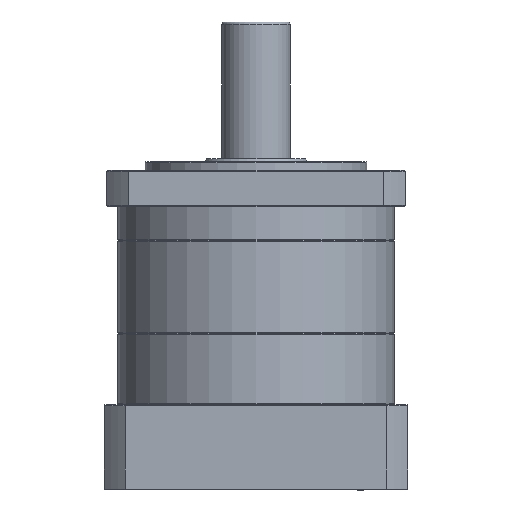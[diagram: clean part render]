
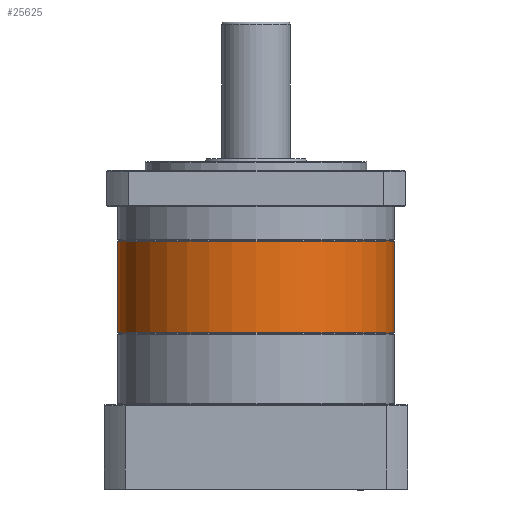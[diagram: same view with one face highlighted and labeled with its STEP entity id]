
A CAD part, front view. The second image highlights one B-rep face of the part: STEP entity #25625.
In plain terms, the highlighted cylindrical face has radius 81 mm (diameter 162 mm), a partial arc.
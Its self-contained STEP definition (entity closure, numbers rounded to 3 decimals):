
#221 = VECTOR ( 'NONE', #5480, 1000. ) ;
#3948 = DIRECTION ( 'NONE',  ( 0., 0., 1. ) ) ;
#4606 = DIRECTION ( 'NONE',  ( 0., 0., -1. ) ) ;
#5480 = DIRECTION ( 'NONE',  ( 0., 0., 1. ) ) ;
#5521 = VERTEX_POINT ( 'NONE', #92165 ) ;
#6368 = EDGE_CURVE ( 'NONE', #25896, #21013, #52106, .T. ) ;
#10064 = EDGE_CURVE ( 'NONE', #21013, #87005, #22314, .T. ) ;
#10239 = EDGE_CURVE ( 'NONE', #44644, #25896, #62520, .T. ) ;
#11413 = DIRECTION ( 'NONE',  ( 1., 0., 0. ) ) ;
#12840 = EDGE_CURVE ( 'NONE', #5521, #87005, #19695, .T. ) ;
#19695 = CIRCLE ( 'NONE', #96311, 81. ) ;
#21013 = VERTEX_POINT ( 'NONE', #35843 ) ;
#21294 = DIRECTION ( 'NONE',  ( 0., 1., 0. ) ) ;
#22314 = LINE ( 'NONE', #88159, #221 ) ;
#22597 = ORIENTED_EDGE ( 'NONE', *, *, #12840, .T. ) ;
#25625 = ADVANCED_FACE ( 'NONE', ( #80813 ), #70359, .T. ) ;
#25896 = VERTEX_POINT ( 'NONE', #101438 ) ;
#33723 = DIRECTION ( 'NONE',  ( 0., 0., 1. ) ) ;
#34194 = AXIS2_PLACEMENT_3D ( 'NONE', #65243, #105965, #64540 ) ;
#35377 = DIRECTION ( 'NONE',  ( 0., 0., -1. ) ) ;
#35796 = ORIENTED_EDGE ( 'NONE', *, *, #73195, .T. ) ;
#35843 = CARTESIAN_POINT ( 'NONE',  ( 94.484, 78.843, 45.418 ) ) ;
#38027 = CARTESIAN_POINT ( 'NONE',  ( 175.484, 78.843, 44.918 ) ) ;
#44068 = CARTESIAN_POINT ( 'NONE',  ( 175.484, 78.843, 98.918 ) ) ;
#44644 = VERTEX_POINT ( 'NONE', #65484 ) ;
#46223 = CARTESIAN_POINT ( 'NONE',  ( 94.484, 78.843, 98.918 ) ) ;
#50736 = CARTESIAN_POINT ( 'NONE',  ( 256.484, 78.843, 44.918 ) ) ;
#52106 = CIRCLE ( 'NONE', #94867, 81. ) ;
#52663 = EDGE_LOOP ( 'NONE', ( #91822, #94289, #104090, #35796, #22597 ) ) ;
#62520 = CIRCLE ( 'NONE', #34194, 81. ) ;
#64540 = DIRECTION ( 'NONE',  ( 0., 1., 0. ) ) ;
#65243 = CARTESIAN_POINT ( 'NONE',  ( 175.484, 78.843, 45.418 ) ) ;
#65484 = CARTESIAN_POINT ( 'NONE',  ( 256.484, 78.843, 45.418 ) ) ;
#70359 = CYLINDRICAL_SURFACE ( 'NONE', #95948, 81. ) ;
#73195 = EDGE_CURVE ( 'NONE', #44644, #5521, #97705, .T. ) ;
#80813 = FACE_OUTER_BOUND ( 'NONE', #52663, .T. ) ;
#87005 = VERTEX_POINT ( 'NONE', #46223 ) ;
#87725 = DIRECTION ( 'NONE',  ( 1., 0., 0. ) ) ;
#88159 = CARTESIAN_POINT ( 'NONE',  ( 94.484, 78.843, 44.918 ) ) ;
#91822 = ORIENTED_EDGE ( 'NONE', *, *, #10064, .F. ) ;
#92165 = CARTESIAN_POINT ( 'NONE',  ( 256.484, 78.843, 98.918 ) ) ;
#93796 = VECTOR ( 'NONE', #33723, 1000. ) ;
#94289 = ORIENTED_EDGE ( 'NONE', *, *, #6368, .F. ) ;
#94867 = AXIS2_PLACEMENT_3D ( 'NONE', #94885, #4606, #21294 ) ;
#94885 = CARTESIAN_POINT ( 'NONE',  ( 175.484, 78.843, 45.418 ) ) ;
#95948 = AXIS2_PLACEMENT_3D ( 'NONE', #38027, #3948, #87725 ) ;
#96311 = AXIS2_PLACEMENT_3D ( 'NONE', #44068, #35377, #11413 ) ;
#97705 = LINE ( 'NONE', #50736, #93796 ) ;
#101438 = CARTESIAN_POINT ( 'NONE',  ( 175.484, -2.157, 45.418 ) ) ;
#104090 = ORIENTED_EDGE ( 'NONE', *, *, #10239, .F. ) ;
#105965 = DIRECTION ( 'NONE',  ( 0., 0., -1. ) ) ;
